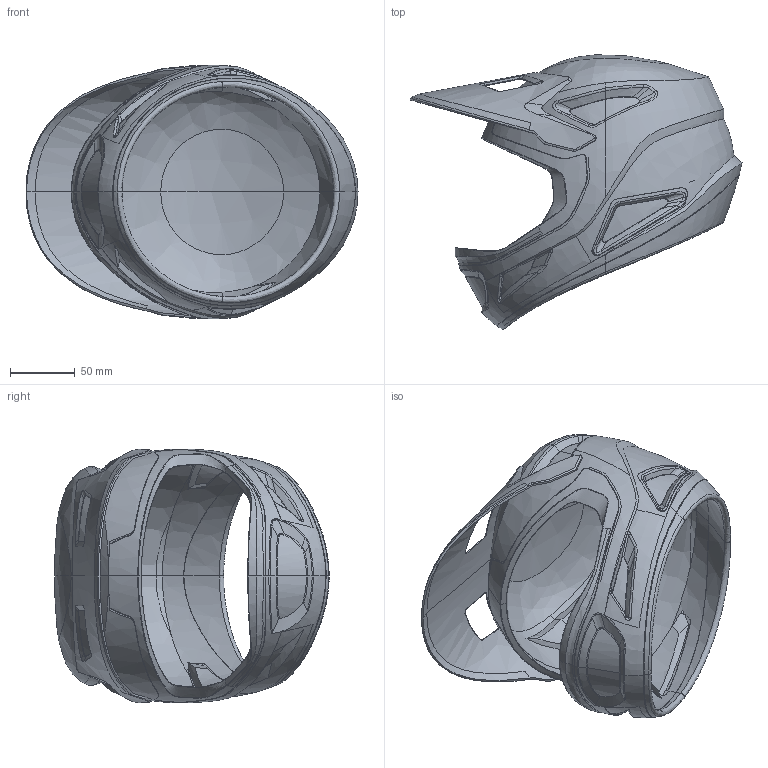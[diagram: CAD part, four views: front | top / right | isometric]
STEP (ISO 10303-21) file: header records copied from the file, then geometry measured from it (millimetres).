
FILE_DESCRIPTION((''),'2;1');
FILE_NAME('0001','2025-08-12T15:52:29',('zou'),(''),'CREO PARAMETRIC BY PTC INC, 2022073','CREO PARAMETRIC BY PTC INC, 2022073','');
FILE_SCHEMA(('CONFIG_CONTROL_DESIGN'));
Products named in the file (1): 0001
Bounding box: 257.06 x 212.42 x 196.42 mm (x, y, z)
Volume: 441237.7 mm3; surface area: 250832.2 mm2
Topology: 6 solids, 6 shells, 389 faces, 984 edges, 605 vertices
Faces by surface type: bspline 349, plane 18, cylinder 16, extrusion 6
Entity records: 45119 total; most frequent: CARTESIAN_POINT 38491, ORIENTED_EDGE 1968, EDGE_CURVE 984, B_SPLINE_CURVE_WITH_KNOTS 793, VERTEX_POINT 605, EDGE_LOOP 401, FACE_OUTER_BOUND 388, ADVANCED_FACE 388
